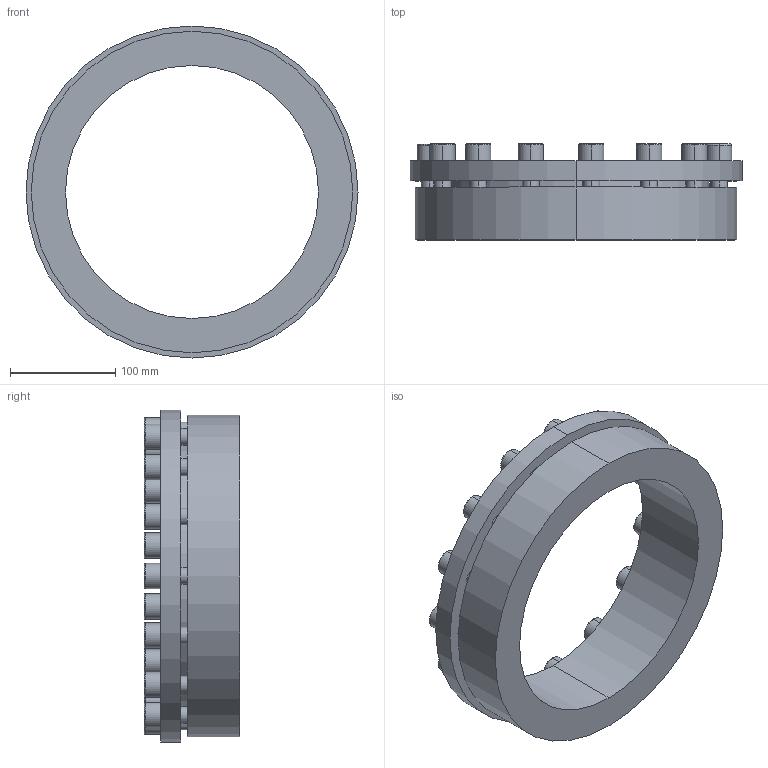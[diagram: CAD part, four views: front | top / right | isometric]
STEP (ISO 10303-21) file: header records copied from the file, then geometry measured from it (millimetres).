
FILE_DESCRIPTION (( 'STEP AP203' ), '1' );
FILE_NAME ('PL-H6 240-305.STEP', '2021-10-23T01:40:21', ( '' ), ( '' ), 'SwSTEP 2.0', 'SolidWorks 2018', '' );
FILE_SCHEMA (( 'CONFIG_CONTROL_DESIGN' ));
Length unit declared in the file: millimetre
Products named in the file (1): PL-H6 240-305
Bounding box: 315 x 91 x 315 mm (x, y, z)
Volume: 2148551.9 mm3; surface area: 260907.2 mm2
Topology: 1 solids, 1 shells, 222 faces, 534 edges, 346 vertices
Faces by surface type: plane 124, cylinder 68, torus 30
Entity records: 6615 total; most frequent: DIRECTION 1176, CARTESIAN_POINT 1103, ORIENTED_EDGE 1068, EDGE_CURVE 534, AXIS2_PLACEMENT_3D 419, VERTEX_POINT 346, VECTOR 338, LINE 338
